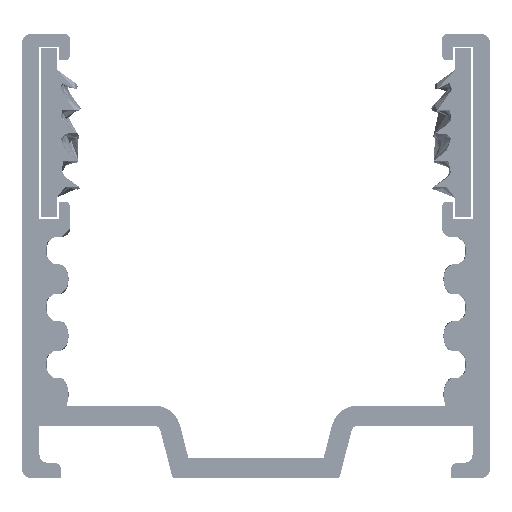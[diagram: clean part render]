
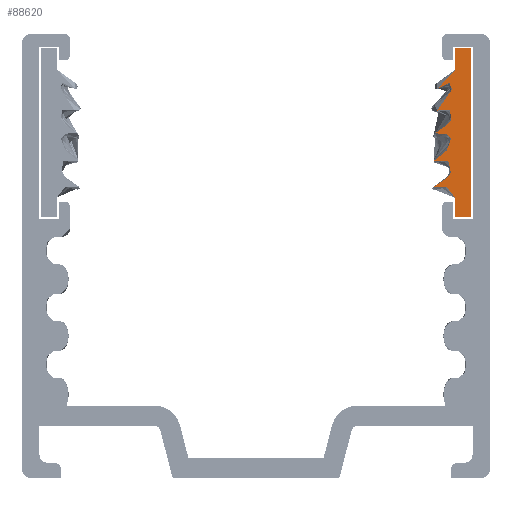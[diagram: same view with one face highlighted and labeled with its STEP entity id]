
A CAD part, left-side view. The second image highlights one B-rep face of the part: STEP entity #88620.
In plain terms, the highlighted planar face has unit normal (-1, 0, 0).
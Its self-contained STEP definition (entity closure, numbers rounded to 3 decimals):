
#5948=FACE_OUTER_BOUND('',#10328,.T.);
#10328=EDGE_LOOP('',(#81410,#81411,#81412,#81413,#81414,#81415,#81416));
#11709=B_SPLINE_CURVE_WITH_KNOTS('',3,(#201515,#201516,#201517,#201518,
#201519,#201520,#201521,#201522,#201523,#201524,#201525,#201526,#201527,
#201528,#201529,#201530,#201531,#201532,#201533,#201534,#201535,#201536,
#201537,#201538,#201539,#201540,#201541,#201542,#201543,#201544,#201545,
#201546,#201547,#201548,#201549,#201550,#201551,#201552,#201553,#201554,
#201555,#201556),.UNSPECIFIED.,.F.,.F.,(4,1,1,1,1,1,1,1,1,1,1,1,1,1,1,1,
1,1,1,1,1,1,1,1,1,1,1,1,1,1,1,1,1,1,1,1,1,1,1,4),(15.598,16.598,
17.598,18.598,19.598,20.598,21.598,
22.598,23.598,24.598,25.598,26.598,
27.598,28.598,29.598,30.598,31.598,
32.598,33.598,34.598,35.598,36.598,
37.598,38.598,39.598,40.598,41.598,
42.598,43.598,44.598,45.598,46.598,
47.598,48.598,49.598,50.598,51.598,
52.598,53.598,54.598),.UNSPECIFIED.);
#11711=B_SPLINE_CURVE_WITH_KNOTS('',3,(#201623,#201624,#201625,#201626,
#201627,#201628,#201629,#201630,#201631,#201632,#201633),.UNSPECIFIED.,
 .F.,.F.,(4,1,1,1,1,1,1,1,4),(7.598,8.598,9.598,
10.598,11.598,12.598,13.598,14.598,
15.598),.UNSPECIFIED.);
#23420=LINE('',#201400,#33330);
#23424=LINE('',#201408,#33334);
#23427=LINE('',#201414,#33337);
#23430=LINE('',#201420,#33340);
#23433=LINE('',#201426,#33343);
#33330=VECTOR('',#115011,10.);
#33334=VECTOR('',#115017,10.);
#33337=VECTOR('',#115022,10.);
#33340=VECTOR('',#115027,10.);
#33343=VECTOR('',#115032,10.);
#42073=VERTEX_POINT('',#201398);
#42074=VERTEX_POINT('',#201399);
#42077=VERTEX_POINT('',#201407);
#42079=VERTEX_POINT('',#201413);
#42081=VERTEX_POINT('',#201419);
#42083=VERTEX_POINT('',#201425);
#42085=VERTEX_POINT('',#201514);
#55176=EDGE_CURVE('',#42073,#42074,#23420,.T.);
#55180=EDGE_CURVE('',#42074,#42077,#23424,.T.);
#55183=EDGE_CURVE('',#42077,#42079,#23427,.T.);
#55186=EDGE_CURVE('',#42079,#42081,#23430,.T.);
#55189=EDGE_CURVE('',#42081,#42083,#23433,.T.);
#55192=EDGE_CURVE('',#42085,#42083,#11709,.T.);
#55195=EDGE_CURVE('',#42073,#42085,#11711,.T.);
#81410=ORIENTED_EDGE('',*,*,#55195,.F.);
#81411=ORIENTED_EDGE('',*,*,#55176,.T.);
#81412=ORIENTED_EDGE('',*,*,#55180,.T.);
#81413=ORIENTED_EDGE('',*,*,#55183,.T.);
#81414=ORIENTED_EDGE('',*,*,#55186,.T.);
#81415=ORIENTED_EDGE('',*,*,#55189,.T.);
#81416=ORIENTED_EDGE('',*,*,#55192,.F.);
#84244=PLANE('',#94133);
#88620=ADVANCED_FACE('',(#5948),#84244,.F.);
#94133=AXIS2_PLACEMENT_3D('',#201646,#115038,#115039);
#115011=DIRECTION('',(0.,0.,-1.));
#115017=DIRECTION('',(0.,-1.,0.));
#115022=DIRECTION('',(0.,0.,1.));
#115027=DIRECTION('',(0.,1.,0.));
#115032=DIRECTION('',(0.,0.,-1.));
#115038=DIRECTION('center_axis',(1.,0.,0.));
#115039=DIRECTION('ref_axis',(0.,1.,0.));
#201398=CARTESIAN_POINT('',(0.,-11.798,16.569));
#201399=CARTESIAN_POINT('',(0.,-11.798,15.42));
#201400=CARTESIAN_POINT('',(0.,-11.798,16.569));
#201407=CARTESIAN_POINT('',(0.,-12.704,15.42));
#201408=CARTESIAN_POINT('',(0.,-11.798,15.42));
#201413=CARTESIAN_POINT('',(0.,-12.704,25.42));
#201414=CARTESIAN_POINT('',(0.,-12.704,15.42));
#201419=CARTESIAN_POINT('',(0.,-11.798,25.42));
#201420=CARTESIAN_POINT('',(0.,-12.704,25.42));
#201425=CARTESIAN_POINT('',(0.,-11.798,24.167));
#201426=CARTESIAN_POINT('',(0.,-11.798,25.42));
#201514=CARTESIAN_POINT('',(0.,-10.466,17.211));
#201515=CARTESIAN_POINT('Ctrl Pts',(0.,-10.466,17.211));
#201516=CARTESIAN_POINT('Ctrl Pts',(0.,-11.066,17.559));
#201517=CARTESIAN_POINT('Ctrl Pts',(0.,-11.467,17.854));
#201518=CARTESIAN_POINT('Ctrl Pts',(0.,-11.582,18.167));
#201519=CARTESIAN_POINT('Ctrl Pts',(0.,-11.578,18.571));
#201520=CARTESIAN_POINT('Ctrl Pts',(0.,-11.31,18.834));
#201521=CARTESIAN_POINT('Ctrl Pts',(0.,-10.988,18.749));
#201522=CARTESIAN_POINT('Ctrl Pts',(0.,-10.658,18.598));
#201523=CARTESIAN_POINT('Ctrl Pts',(0.,-10.504,18.688));
#201524=CARTESIAN_POINT('Ctrl Pts',(0.,-10.502,18.898));
#201525=CARTESIAN_POINT('Ctrl Pts',(0.,-10.766,19.023));
#201526=CARTESIAN_POINT('Ctrl Pts',(0.,-11.36,19.397));
#201527=CARTESIAN_POINT('Ctrl Pts',(0.,-11.622,19.823));
#201528=CARTESIAN_POINT('Ctrl Pts',(0.,-11.511,20.277));
#201529=CARTESIAN_POINT('Ctrl Pts',(0.,-11.213,20.427));
#201530=CARTESIAN_POINT('Ctrl Pts',(0.,-10.776,20.183));
#201531=CARTESIAN_POINT('Ctrl Pts',(0.,-10.603,20.074));
#201532=CARTESIAN_POINT('Ctrl Pts',(0.,-10.487,20.173));
#201533=CARTESIAN_POINT('Ctrl Pts',(0.,-10.485,20.356));
#201534=CARTESIAN_POINT('Ctrl Pts',(0.,-10.903,20.619));
#201535=CARTESIAN_POINT('Ctrl Pts',(0.,-11.406,20.96));
#201536=CARTESIAN_POINT('Ctrl Pts',(0.,-11.552,21.151));
#201537=CARTESIAN_POINT('Ctrl Pts',(0.,-11.615,21.499));
#201538=CARTESIAN_POINT('Ctrl Pts',(0.,-11.469,21.855));
#201539=CARTESIAN_POINT('Ctrl Pts',(0.,-11.202,21.935));
#201540=CARTESIAN_POINT('Ctrl Pts',(0.,-10.902,21.821));
#201541=CARTESIAN_POINT('Ctrl Pts',(0.,-10.571,21.671));
#201542=CARTESIAN_POINT('Ctrl Pts',(0.,-10.372,21.74));
#201543=CARTESIAN_POINT('Ctrl Pts',(0.,-10.37,21.983));
#201544=CARTESIAN_POINT('Ctrl Pts',(0.,-10.605,22.074));
#201545=CARTESIAN_POINT('Ctrl Pts',(0.,-11.069,22.353));
#201546=CARTESIAN_POINT('Ctrl Pts',(0.,-11.488,22.638));
#201547=CARTESIAN_POINT('Ctrl Pts',(0.,-11.625,23.004));
#201548=CARTESIAN_POINT('Ctrl Pts',(0.,-11.621,23.393));
#201549=CARTESIAN_POINT('Ctrl Pts',(0.,-11.276,23.39));
#201550=CARTESIAN_POINT('Ctrl Pts',(0.,-10.915,23.118));
#201551=CARTESIAN_POINT('Ctrl Pts',(0.,-10.718,22.989));
#201552=CARTESIAN_POINT('Ctrl Pts',(0.,-10.552,23.038));
#201553=CARTESIAN_POINT('Ctrl Pts',(0.,-10.549,23.262));
#201554=CARTESIAN_POINT('Ctrl Pts',(0.,-10.772,23.417));
#201555=CARTESIAN_POINT('Ctrl Pts',(0.,-11.406,23.928));
#201556=CARTESIAN_POINT('Ctrl Pts',(0.,-11.798,24.167));
#201623=CARTESIAN_POINT('Ctrl Pts',(0.,-11.798,16.569));
#201624=CARTESIAN_POINT('Ctrl Pts',(0.,-11.713,16.569));
#201625=CARTESIAN_POINT('Ctrl Pts',(0.,-11.513,16.675));
#201626=CARTESIAN_POINT('Ctrl Pts',(0.,-11.468,16.878));
#201627=CARTESIAN_POINT('Ctrl Pts',(0.,-11.404,17.145));
#201628=CARTESIAN_POINT('Ctrl Pts',(0.,-11.243,17.248));
#201629=CARTESIAN_POINT('Ctrl Pts',(0.,-11.02,17.217));
#201630=CARTESIAN_POINT('Ctrl Pts',(0.,-10.75,17.106));
#201631=CARTESIAN_POINT('Ctrl Pts',(0.,-10.548,17.019));
#201632=CARTESIAN_POINT('Ctrl Pts',(0.,-10.377,17.09));
#201633=CARTESIAN_POINT('Ctrl Pts',(0.,-10.466,17.211));
#201646=CARTESIAN_POINT('Origin',(0.,-11.537,20.42));
